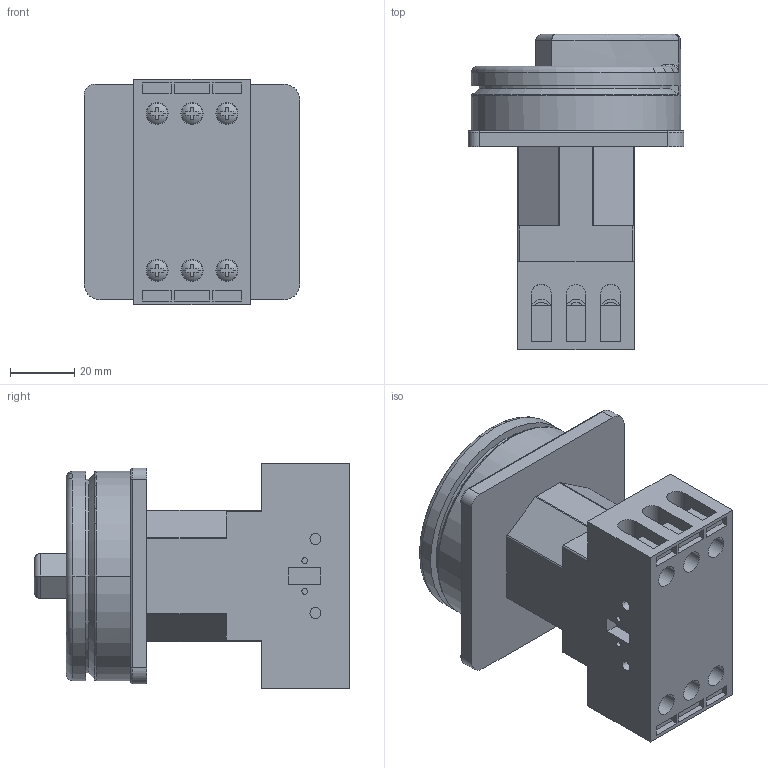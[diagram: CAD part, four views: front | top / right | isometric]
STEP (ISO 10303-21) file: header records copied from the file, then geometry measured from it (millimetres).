
FILE_DESCRIPTION((''),'2;1');
FILE_NAME('CDF1-32_SW0002','2023-07-05T',('xiaokai.shi'),(''),'PRO/ENGINEER BY PARAMETRIC TECHNOLOGY CORPORATION, 2015440','PRO/ENGINEER BY PARAMETRIC TECHNOLOGY CORPORATION, 2015440','');
FILE_SCHEMA(('CONFIG_CONTROL_DESIGN'));
Length unit declared in the file: millimetre
Products named in the file (1): CDF1-32_SW0002
Bounding box: 67 x 98 x 70.1 mm (x, y, z)
Surface area: 37670.5 mm2 (no closed solid volume)
Topology: 0 solids, 1 shells, 427 faces, 1114 edges, 724 vertices
Faces by surface type: plane 282, cylinder 85, revolution 22, extrusion 16, bspline 12, torus 9, cone 1
Entity records: 15653 total; most frequent: CARTESIAN_POINT 5447, ORIENTED_EDGE 2228, DIRECTION 1863, EDGE_CURVE 1114, VERTEX_POINT 724, VECTOR 693, LINE 677, AXIS2_PLACEMENT_3D 574
